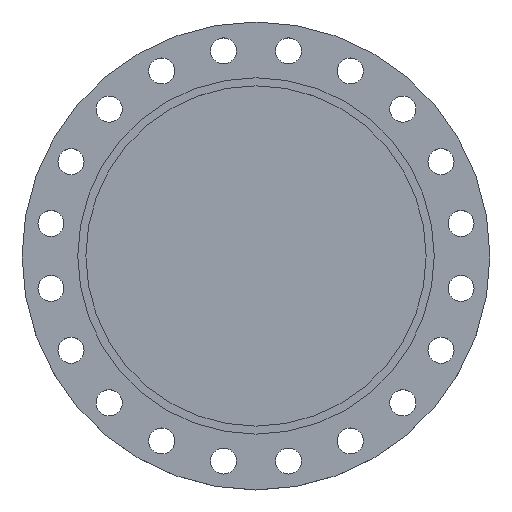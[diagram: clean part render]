
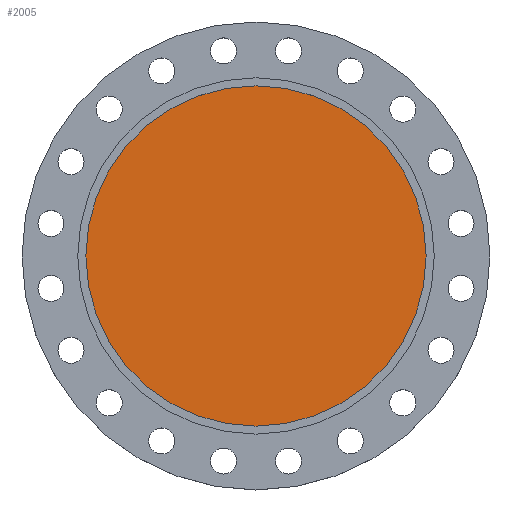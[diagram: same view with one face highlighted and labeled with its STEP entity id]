
A CAD part, top view. The second image highlights one B-rep face of the part: STEP entity #2005.
In plain terms, the highlighted planar face has unit normal (0, 0, 1).
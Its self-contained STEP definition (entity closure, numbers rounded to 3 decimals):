
#154 = DIRECTION ( 'NONE',  ( -1., 0., 0. ) ) ;
#260 = CIRCLE ( 'NONE', #1477, 274.5 ) ;
#310 = DIRECTION ( 'NONE',  ( 1., 0., 0. ) ) ;
#458 = PLANE ( 'NONE',  #1775 ) ;
#519 = ORIENTED_EDGE ( 'NONE', *, *, #1094, .F. ) ;
#541 = VERTEX_POINT ( 'NONE', #1896 ) ;
#567 = CIRCLE ( 'NONE', #950, 274.5 ) ;
#678 = CARTESIAN_POINT ( 'NONE',  ( 0., 0., -5.5 ) ) ;
#690 = ORIENTED_EDGE ( 'NONE', *, *, #2013, .F. ) ;
#882 = VERTEX_POINT ( 'NONE', #1129 ) ;
#950 = AXIS2_PLACEMENT_3D ( 'NONE', #678, #1356, #1879 ) ;
#971 = CARTESIAN_POINT ( 'NONE',  ( 0., 0., -5.5 ) ) ;
#1001 = EDGE_LOOP ( 'NONE', ( #690, #519 ) ) ;
#1094 = EDGE_CURVE ( 'NONE', #541, #882, #567, .T. ) ;
#1129 = CARTESIAN_POINT ( 'NONE',  ( -274.5, 0., -5.5 ) ) ;
#1178 = CARTESIAN_POINT ( 'NONE',  ( 274.5, 0., -5.5 ) ) ;
#1356 = DIRECTION ( 'NONE',  ( 0., 0., -1. ) ) ;
#1477 = AXIS2_PLACEMENT_3D ( 'NONE', #971, #1613, #154 ) ;
#1613 = DIRECTION ( 'NONE',  ( 0., 0., -1. ) ) ;
#1739 = DIRECTION ( 'NONE',  ( 0., 0., 1. ) ) ;
#1775 = AXIS2_PLACEMENT_3D ( 'NONE', #1178, #1739, #310 ) ;
#1861 = FACE_OUTER_BOUND ( 'NONE', #1001, .T. ) ;
#1879 = DIRECTION ( 'NONE',  ( -1., 0., 0. ) ) ;
#1896 = CARTESIAN_POINT ( 'NONE',  ( 274.5, 0., -5.5 ) ) ;
#2005 = ADVANCED_FACE ( 'NONE', ( #1861 ), #458, .T. ) ;
#2013 = EDGE_CURVE ( 'NONE', #882, #541, #260, .T. ) ;
